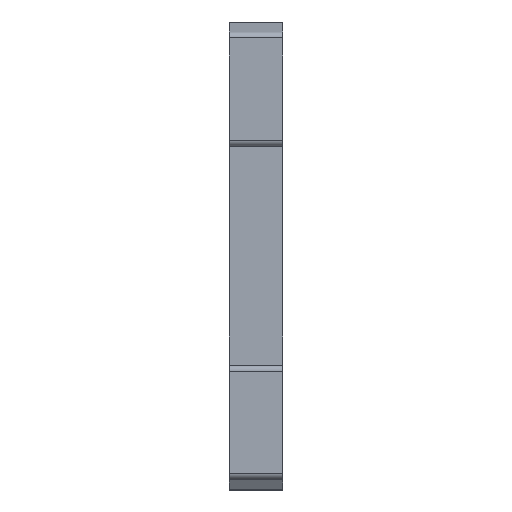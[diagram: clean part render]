
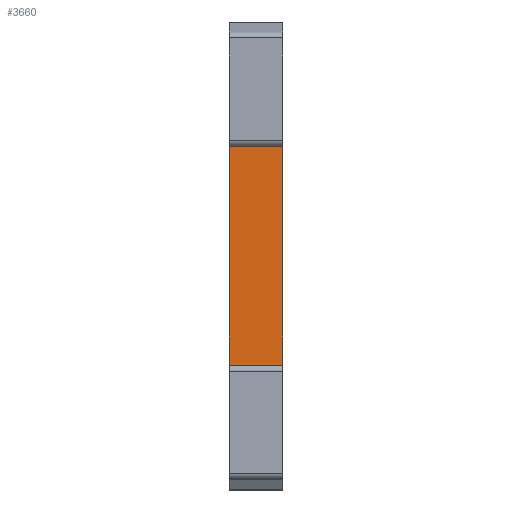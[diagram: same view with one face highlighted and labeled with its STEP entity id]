
A CAD part, top view. The second image highlights one B-rep face of the part: STEP entity #3660.
In plain terms, the highlighted planar face has unit normal (0, 0, 1).
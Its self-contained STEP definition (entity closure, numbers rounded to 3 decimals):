
#66=LINE('',#4997,#415);
#374=LINE('',#6062,#723);
#412=LINE('',#6223,#761);
#413=LINE('',#6225,#762);
#415=VECTOR('',#4068,10.);
#723=VECTOR('',#4676,10.);
#761=VECTOR('',#4904,10.);
#762=VECTOR('',#4907,10.);
#924=PLANE('',#3961);
#1209=FACE_OUTER_BOUND('',#1494,.T.);
#1494=EDGE_LOOP('',(#3392,#3393,#3394,#3395));
#1628=VERTEX_POINT('',#4994);
#1629=VERTEX_POINT('',#4996);
#1912=VERTEX_POINT('',#6059);
#1913=VERTEX_POINT('',#6061);
#1972=EDGE_CURVE('',#1628,#1629,#66,.T.);
#2359=EDGE_CURVE('',#1912,#1913,#374,.T.);
#2425=EDGE_CURVE('',#1913,#1628,#412,.T.);
#2426=EDGE_CURVE('',#1912,#1629,#413,.T.);
#3392=ORIENTED_EDGE('',*,*,#2359,.F.);
#3393=ORIENTED_EDGE('',*,*,#2426,.T.);
#3394=ORIENTED_EDGE('',*,*,#1972,.F.);
#3395=ORIENTED_EDGE('',*,*,#2425,.F.);
#3660=ADVANCED_FACE('',(#1209),#924,.T.);
#3961=AXIS2_PLACEMENT_3D('',#6226,#4908,#4909);
#4068=DIRECTION('',(0.,-1.,0.));
#4676=DIRECTION('',(0.,1.,0.));
#4904=DIRECTION('',(1.,0.,0.));
#4907=DIRECTION('',(1.,0.,0.));
#4908=DIRECTION('center_axis',(0.,0.,1.));
#4909=DIRECTION('ref_axis',(0.,-1.,0.));
#4994=CARTESIAN_POINT('',(9.,19.475,47.55));
#4996=CARTESIAN_POINT('',(9.,-19.475,47.55));
#4997=CARTESIAN_POINT('',(9.,0.,47.55));
#6059=CARTESIAN_POINT('',(0.,-19.475,47.55));
#6061=CARTESIAN_POINT('',(0.,19.475,47.55));
#6062=CARTESIAN_POINT('',(0.,0.,47.55));
#6223=CARTESIAN_POINT('',(0.,19.475,47.55));
#6225=CARTESIAN_POINT('',(0.,-19.475,47.55));
#6226=CARTESIAN_POINT('Origin',(0.,19.475,47.55));
